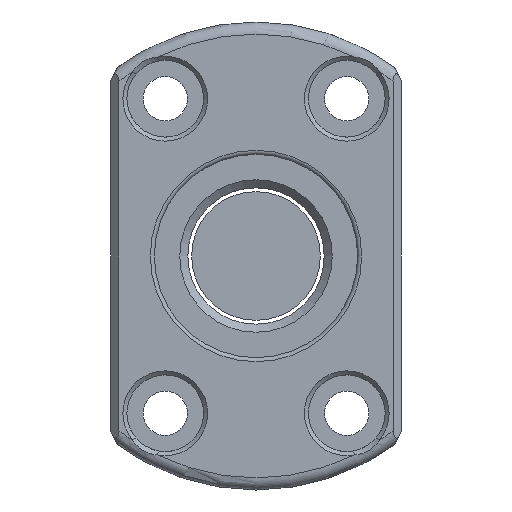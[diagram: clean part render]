
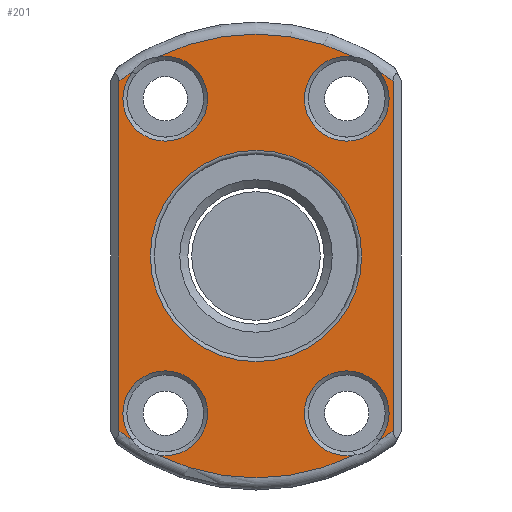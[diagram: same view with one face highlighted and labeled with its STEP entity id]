
A CAD part, front view. The second image highlights one B-rep face of the part: STEP entity #201.
In plain terms, the highlighted planar face has unit normal (0, -1, 0).
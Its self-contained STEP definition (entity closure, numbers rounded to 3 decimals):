
#78=LINE('',#1265,#104);
#79=LINE('',#1277,#105);
#104=VECTOR('',#1027,1.);
#105=VECTOR('',#1038,1.);
#152=PLANE('',#912);
#201=ADVANCED_FACE('',(#275,#276),#152,.T.);
#275=FACE_BOUND('',#343,.T.);
#276=FACE_BOUND('',#344,.T.);
#343=EDGE_LOOP('',(#438,#439,#440,#441,#442,#443,#444,#445,#446,#447,#448,
#449));
#344=EDGE_LOOP('',(#450));
#438=ORIENTED_EDGE('',*,*,#736,.T.);
#439=ORIENTED_EDGE('',*,*,#737,.T.);
#440=ORIENTED_EDGE('',*,*,#738,.T.);
#441=ORIENTED_EDGE('',*,*,#739,.T.);
#442=ORIENTED_EDGE('',*,*,#740,.T.);
#443=ORIENTED_EDGE('',*,*,#741,.T.);
#444=ORIENTED_EDGE('',*,*,#742,.T.);
#445=ORIENTED_EDGE('',*,*,#743,.T.);
#446=ORIENTED_EDGE('',*,*,#744,.T.);
#447=ORIENTED_EDGE('',*,*,#745,.T.);
#448=ORIENTED_EDGE('',*,*,#746,.T.);
#449=ORIENTED_EDGE('',*,*,#747,.T.);
#450=ORIENTED_EDGE('',*,*,#748,.T.);
#656=VERTEX_POINT('',#1259);
#657=VERTEX_POINT('',#1260);
#658=VERTEX_POINT('',#1262);
#659=VERTEX_POINT('',#1264);
#660=VERTEX_POINT('',#1266);
#661=VERTEX_POINT('',#1268);
#662=VERTEX_POINT('',#1270);
#663=VERTEX_POINT('',#1272);
#664=VERTEX_POINT('',#1274);
#665=VERTEX_POINT('',#1276);
#666=VERTEX_POINT('',#1278);
#667=VERTEX_POINT('',#1280);
#668=VERTEX_POINT('',#1283);
#736=EDGE_CURVE('',#656,#657,#844,.T.);
#737=EDGE_CURVE('',#657,#658,#845,.T.);
#738=EDGE_CURVE('',#658,#659,#846,.T.);
#739=EDGE_CURVE('',#659,#660,#78,.T.);
#740=EDGE_CURVE('',#660,#661,#847,.T.);
#741=EDGE_CURVE('',#661,#662,#848,.T.);
#742=EDGE_CURVE('',#662,#663,#849,.T.);
#743=EDGE_CURVE('',#663,#664,#850,.T.);
#744=EDGE_CURVE('',#664,#665,#851,.T.);
#745=EDGE_CURVE('',#665,#666,#79,.T.);
#746=EDGE_CURVE('',#666,#667,#852,.T.);
#747=EDGE_CURVE('',#667,#656,#853,.T.);
#748=EDGE_CURVE('',#668,#668,#854,.T.);
#844=CIRCLE('',#901,27.5);
#845=CIRCLE('',#902,5.25);
#846=CIRCLE('',#903,27.5);
#847=CIRCLE('',#904,27.5);
#848=CIRCLE('',#905,5.25);
#849=CIRCLE('',#906,27.5);
#850=CIRCLE('',#907,5.25);
#851=CIRCLE('',#908,27.5);
#852=CIRCLE('',#909,27.5);
#853=CIRCLE('',#910,5.25);
#854=CIRCLE('',#911,13.1);
#901=AXIS2_PLACEMENT_3D('',#1258,#1021,#1022);
#902=AXIS2_PLACEMENT_3D('',#1261,#1023,#1024);
#903=AXIS2_PLACEMENT_3D('',#1263,#1025,#1026);
#904=AXIS2_PLACEMENT_3D('',#1267,#1028,#1029);
#905=AXIS2_PLACEMENT_3D('',#1269,#1030,#1031);
#906=AXIS2_PLACEMENT_3D('',#1271,#1032,#1033);
#907=AXIS2_PLACEMENT_3D('',#1273,#1034,#1035);
#908=AXIS2_PLACEMENT_3D('',#1275,#1036,#1037);
#909=AXIS2_PLACEMENT_3D('',#1279,#1039,#1040);
#910=AXIS2_PLACEMENT_3D('',#1281,#1041,#1042);
#911=AXIS2_PLACEMENT_3D('',#1282,#1043,#1044);
#912=AXIS2_PLACEMENT_3D('',#1284,#1045,#1046);
#1021=DIRECTION('',(0.,-1.,0.));
#1022=DIRECTION('',(0.,0.,-1.));
#1023=DIRECTION('',(0.,1.,0.));
#1024=DIRECTION('',(0.,0.,-1.));
#1025=DIRECTION('',(0.,-1.,0.));
#1026=DIRECTION('',(0.,0.,-1.));
#1027=DIRECTION('',(0.,0.,-1.));
#1028=DIRECTION('',(0.,-1.,0.));
#1029=DIRECTION('',(0.,0.,-1.));
#1030=DIRECTION('',(0.,1.,0.));
#1031=DIRECTION('',(0.,0.,-1.));
#1032=DIRECTION('',(0.,-1.,0.));
#1033=DIRECTION('',(0.,0.,-1.));
#1034=DIRECTION('',(0.,1.,0.));
#1035=DIRECTION('',(0.,0.,-1.));
#1036=DIRECTION('',(0.,-1.,0.));
#1037=DIRECTION('',(0.,0.,-1.));
#1038=DIRECTION('',(0.,0.,1.));
#1039=DIRECTION('',(0.,-1.,0.));
#1040=DIRECTION('',(0.,0.,-1.));
#1041=DIRECTION('',(0.,1.,0.));
#1042=DIRECTION('',(0.,0.,-1.));
#1043=DIRECTION('',(0.,1.,0.));
#1044=DIRECTION('',(0.,0.,-1.));
#1045=DIRECTION('',(0.,-1.,0.));
#1046=DIRECTION('',(0.,0.,-1.));
#1258=CARTESIAN_POINT('',(0.,0.,0.));
#1259=CARTESIAN_POINT('',(12.19,0.,24.651));
#1260=CARTESIAN_POINT('',(-12.19,0.,24.651));
#1261=CARTESIAN_POINT('',(-11.25,0.,19.486));
#1262=CARTESIAN_POINT('',(-15.253,0.,22.882));
#1263=CARTESIAN_POINT('',(0.,0.,0.));
#1264=CARTESIAN_POINT('',(-17.,0.,21.616));
#1265=CARTESIAN_POINT('',(-17.,0.,0.));
#1266=CARTESIAN_POINT('',(-17.,0.,-21.616));
#1267=CARTESIAN_POINT('',(0.,0.,0.));
#1268=CARTESIAN_POINT('',(-15.253,0.,-22.882));
#1269=CARTESIAN_POINT('',(-11.25,0.,-19.486));
#1270=CARTESIAN_POINT('',(-12.19,0.,-24.651));
#1271=CARTESIAN_POINT('',(0.,0.,0.));
#1272=CARTESIAN_POINT('',(12.19,0.,-24.651));
#1273=CARTESIAN_POINT('',(11.25,0.,-19.486));
#1274=CARTESIAN_POINT('',(15.253,0.,-22.882));
#1275=CARTESIAN_POINT('',(0.,0.,0.));
#1276=CARTESIAN_POINT('',(17.,0.,-21.616));
#1277=CARTESIAN_POINT('',(17.,0.,20.791));
#1278=CARTESIAN_POINT('',(17.,0.,21.616));
#1279=CARTESIAN_POINT('',(0.,0.,0.));
#1280=CARTESIAN_POINT('',(15.253,0.,22.882));
#1281=CARTESIAN_POINT('',(11.25,0.,19.486));
#1282=CARTESIAN_POINT('',(0.,0.,0.));
#1283=CARTESIAN_POINT('',(0.,0.,-13.1));
#1284=CARTESIAN_POINT('',(0.,0.,0.));
